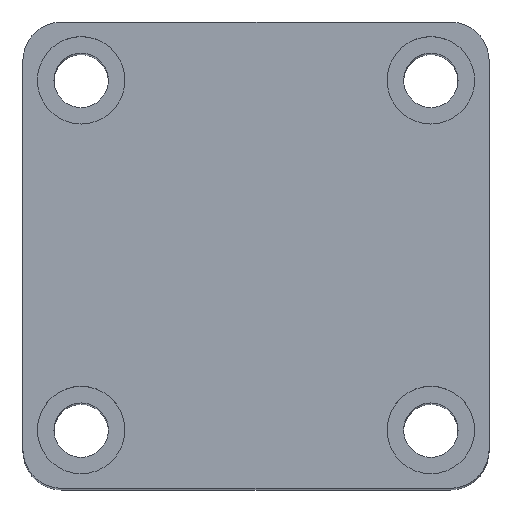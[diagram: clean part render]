
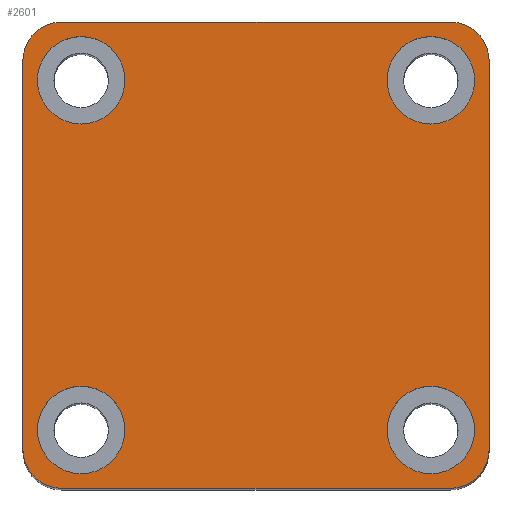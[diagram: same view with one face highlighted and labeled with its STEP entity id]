
A CAD part, top view. The second image highlights one B-rep face of the part: STEP entity #2601.
In plain terms, the highlighted planar face has unit normal (0, 0, 1).
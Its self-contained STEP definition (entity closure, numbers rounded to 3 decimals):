
#32 = VERTEX_POINT ( 'NONE', #1255 ) ;
#33 = VERTEX_POINT ( 'NONE', #1254 ) ;
#36 = VERTEX_POINT ( 'NONE', #1242 ) ;
#37 = VERTEX_POINT ( 'NONE', #1244 ) ;
#40 = VERTEX_POINT ( 'NONE', #1227 ) ;
#41 = VERTEX_POINT ( 'NONE', #1226 ) ;
#44 = VERTEX_POINT ( 'NONE', #1214 ) ;
#45 = VERTEX_POINT ( 'NONE', #1209 ) ;
#61 = VERTEX_POINT ( 'NONE', #1173 ) ;
#65 = VERTEX_POINT ( 'NONE', #1161 ) ;
#73 = VERTEX_POINT ( 'NONE', #1151 ) ;
#74 = VERTEX_POINT ( 'NONE', #1146 ) ;
#75 = VERTEX_POINT ( 'NONE', #1145 ) ;
#76 = VERTEX_POINT ( 'NONE', #1141 ) ;
#77 = VERTEX_POINT ( 'NONE', #1139 ) ;
#78 = VERTEX_POINT ( 'NONE', #1135 ) ;
#161 = CIRCLE ( 'NONE', #1444, 4.5 ) ;
#164 = VECTOR ( 'NONE', #2105, 1000. ) ;
#167 = LINE ( 'NONE', #2107, #164 ) ;
#171 = VECTOR ( 'NONE', #2076, 1000. ) ;
#177 = LINE ( 'NONE', #2083, #171 ) ;
#179 = VECTOR ( 'NONE', #2400, 1000. ) ;
#183 = LINE ( 'NONE', #2194, #179 ) ;
#449 = FACE_BOUND ( 'NONE', #1845, .T. ) ;
#450 = FACE_BOUND ( 'NONE', #1848, .T. ) ;
#451 = FACE_OUTER_BOUND ( 'NONE', #1849, .T. ) ;
#452 = FACE_BOUND ( 'NONE', #1854, .T. ) ;
#453 = FACE_BOUND ( 'NONE', #1853, .T. ) ;
#518 = CIRCLE ( 'NONE', #1435, 4. ) ;
#519 = CIRCLE ( 'NONE', #1436, 4. ) ;
#520 = CIRCLE ( 'NONE', #1437, 4. ) ;
#521 = CIRCLE ( 'NONE', #1438, 4. ) ;
#523 = CIRCLE ( 'NONE', #1440, 4.5 ) ;
#524 = CIRCLE ( 'NONE', #1441, 4.5 ) ;
#526 = CIRCLE ( 'NONE', #1443, 4.5 ) ;
#530 = CIRCLE ( 'NONE', #1439, 4.5 ) ;
#531 = VECTOR ( 'NONE', #2065, 1000. ) ;
#533 = LINE ( 'NONE', #2050, #531 ) ;
#633 = CIRCLE ( 'NONE', #1461, 4.5 ) ;
#643 = CIRCLE ( 'NONE', #1464, 4.5 ) ;
#689 = CIRCLE ( 'NONE', #1479, 4.5 ) ;
#873 = ORIENTED_EDGE ( 'NONE', *, *, #1667, .F. ) ;
#874 = ORIENTED_EDGE ( 'NONE', *, *, #1620, .F. ) ;
#876 = ORIENTED_EDGE ( 'NONE', *, *, #1668, .F. ) ;
#879 = ORIENTED_EDGE ( 'NONE', *, *, #1626, .F. ) ;
#881 = ORIENTED_EDGE ( 'NONE', *, *, #1669, .F. ) ;
#882 = ORIENTED_EDGE ( 'NONE', *, *, #1662, .F. ) ;
#884 = ORIENTED_EDGE ( 'NONE', *, *, #1670, .F. ) ;
#885 = ORIENTED_EDGE ( 'NONE', *, *, #1589, .F. ) ;
#886 = ORIENTED_EDGE ( 'NONE', *, *, #1655, .T. ) ;
#887 = ORIENTED_EDGE ( 'NONE', *, *, #1671, .T. ) ;
#889 = ORIENTED_EDGE ( 'NONE', *, *, #1657, .T. ) ;
#893 = ORIENTED_EDGE ( 'NONE', *, *, #1672, .T. ) ;
#900 = ORIENTED_EDGE ( 'NONE', *, *, #1663, .T. ) ;
#902 = ORIENTED_EDGE ( 'NONE', *, *, #1673, .T. ) ;
#905 = ORIENTED_EDGE ( 'NONE', *, *, #1648, .T. ) ;
#913 = ORIENTED_EDGE ( 'NONE', *, *, #1674, .T. ) ;
#1071 = DIRECTION ( 'NONE',  ( 1., 0., 0. ) ) ;
#1072 = DIRECTION ( 'NONE',  ( 0., 0., 1. ) ) ;
#1073 = CARTESIAN_POINT ( 'NONE',  ( 18., -18., 100. ) ) ;
#1135 = CARTESIAN_POINT ( 'NONE',  ( 20., -24., 100. ) ) ;
#1139 = CARTESIAN_POINT ( 'NONE',  ( -20., -24., 100. ) ) ;
#1141 = CARTESIAN_POINT ( 'NONE',  ( -24., -20., 100. ) ) ;
#1145 = CARTESIAN_POINT ( 'NONE',  ( -20., 24., 100. ) ) ;
#1146 = CARTESIAN_POINT ( 'NONE',  ( 20., 24., 100. ) ) ;
#1151 = CARTESIAN_POINT ( 'NONE',  ( -24., 20., 100. ) ) ;
#1161 = CARTESIAN_POINT ( 'NONE',  ( 24., 20., 100. ) ) ;
#1173 = CARTESIAN_POINT ( 'NONE',  ( 24., -20., 100. ) ) ;
#1209 = CARTESIAN_POINT ( 'NONE',  ( 22.5, -18., 100. ) ) ;
#1214 = CARTESIAN_POINT ( 'NONE',  ( 13.5, -18., 100. ) ) ;
#1226 = CARTESIAN_POINT ( 'NONE',  ( -13.5, -18., 100. ) ) ;
#1227 = CARTESIAN_POINT ( 'NONE',  ( -22.5, -18., 100. ) ) ;
#1242 = CARTESIAN_POINT ( 'NONE',  ( 13.5, 18., 100. ) ) ;
#1244 = CARTESIAN_POINT ( 'NONE',  ( 22.5, 18., 100. ) ) ;
#1254 = CARTESIAN_POINT ( 'NONE',  ( -13.5, 18., 100. ) ) ;
#1255 = CARTESIAN_POINT ( 'NONE',  ( -22.5, 18., 100. ) ) ;
#1396 = AXIS2_PLACEMENT_3D ( 'NONE', #2297, #2308, #2291 ) ;
#1435 = AXIS2_PLACEMENT_3D ( 'NONE', #2542, #2541, #2539 ) ;
#1436 = AXIS2_PLACEMENT_3D ( 'NONE', #2546, #2544, #2543 ) ;
#1437 = AXIS2_PLACEMENT_3D ( 'NONE', #2549, #2548, #2547 ) ;
#1438 = AXIS2_PLACEMENT_3D ( 'NONE', #2554, #2552, #2551 ) ;
#1439 = AXIS2_PLACEMENT_3D ( 'NONE', #2558, #2557, #2556 ) ;
#1440 = AXIS2_PLACEMENT_3D ( 'NONE', #2565, #2561, #2560 ) ;
#1441 = AXIS2_PLACEMENT_3D ( 'NONE', #2569, #2567, #2566 ) ;
#1443 = AXIS2_PLACEMENT_3D ( 'NONE', #2573, #2572, #2570 ) ;
#1444 = AXIS2_PLACEMENT_3D ( 'NONE', #2037, #2032, #2029 ) ;
#1461 = AXIS2_PLACEMENT_3D ( 'NONE', #2490, #2489, #2494 ) ;
#1464 = AXIS2_PLACEMENT_3D ( 'NONE', #2535, #2540, #2533 ) ;
#1479 = AXIS2_PLACEMENT_3D ( 'NONE', #1073, #1072, #1071 ) ;
#1589 = EDGE_CURVE ( 'NONE', #44, #45, #689, .T. ) ;
#1620 = EDGE_CURVE ( 'NONE', #32, #33, #643, .T. ) ;
#1626 = EDGE_CURVE ( 'NONE', #36, #37, #633, .T. ) ;
#1648 = EDGE_CURVE ( 'NONE', #61, #65, #183, .T. ) ;
#1655 = EDGE_CURVE ( 'NONE', #74, #75, #167, .T. ) ;
#1657 = EDGE_CURVE ( 'NONE', #73, #76, #177, .T. ) ;
#1662 = EDGE_CURVE ( 'NONE', #40, #41, #161, .T. ) ;
#1663 = EDGE_CURVE ( 'NONE', #77, #78, #533, .T. ) ;
#1667 = EDGE_CURVE ( 'NONE', #33, #32, #526, .T. ) ;
#1668 = EDGE_CURVE ( 'NONE', #37, #36, #524, .T. ) ;
#1669 = EDGE_CURVE ( 'NONE', #41, #40, #523, .T. ) ;
#1670 = EDGE_CURVE ( 'NONE', #45, #44, #530, .T. ) ;
#1671 = EDGE_CURVE ( 'NONE', #75, #73, #521, .T. ) ;
#1672 = EDGE_CURVE ( 'NONE', #76, #77, #520, .T. ) ;
#1673 = EDGE_CURVE ( 'NONE', #78, #61, #519, .T. ) ;
#1674 = EDGE_CURVE ( 'NONE', #65, #74, #518, .T. ) ;
#1845 = EDGE_LOOP ( 'NONE', ( #876, #879 ) ) ;
#1848 = EDGE_LOOP ( 'NONE', ( #884, #885 ) ) ;
#1849 = EDGE_LOOP ( 'NONE', ( #886, #887, #889, #893, #900, #902, #905, #913 ) ) ;
#1853 = EDGE_LOOP ( 'NONE', ( #873, #874 ) ) ;
#1854 = EDGE_LOOP ( 'NONE', ( #881, #882 ) ) ;
#2029 = DIRECTION ( 'NONE',  ( 1., 0., 0. ) ) ;
#2032 = DIRECTION ( 'NONE',  ( 0., 0., 1. ) ) ;
#2037 = CARTESIAN_POINT ( 'NONE',  ( -18., -18., 100. ) ) ;
#2050 = CARTESIAN_POINT ( 'NONE',  ( -24., -24., 100. ) ) ;
#2065 = DIRECTION ( 'NONE',  ( 1., 0., 0. ) ) ;
#2076 = DIRECTION ( 'NONE',  ( 0., -1., 0. ) ) ;
#2083 = CARTESIAN_POINT ( 'NONE',  ( -24., 24., 100. ) ) ;
#2105 = DIRECTION ( 'NONE',  ( -1., 0., 0. ) ) ;
#2107 = CARTESIAN_POINT ( 'NONE',  ( -24., 24., 100. ) ) ;
#2194 = CARTESIAN_POINT ( 'NONE',  ( 24., 24., 100. ) ) ;
#2291 = DIRECTION ( 'NONE',  ( 1., 0., 0. ) ) ;
#2295 = PLANE ( 'NONE',  #1396 ) ;
#2297 = CARTESIAN_POINT ( 'NONE',  ( 0., 0., 100. ) ) ;
#2308 = DIRECTION ( 'NONE',  ( 0., 0., 1. ) ) ;
#2400 = DIRECTION ( 'NONE',  ( 0., 1., 0. ) ) ;
#2489 = DIRECTION ( 'NONE',  ( 0., 0., 1. ) ) ;
#2490 = CARTESIAN_POINT ( 'NONE',  ( 18., 18., 100. ) ) ;
#2494 = DIRECTION ( 'NONE',  ( 1., 0., 0. ) ) ;
#2533 = DIRECTION ( 'NONE',  ( 1., 0., 0. ) ) ;
#2535 = CARTESIAN_POINT ( 'NONE',  ( -18., 18., 100. ) ) ;
#2539 = DIRECTION ( 'NONE',  ( 1., 0., 0. ) ) ;
#2540 = DIRECTION ( 'NONE',  ( 0., 0., 1. ) ) ;
#2541 = DIRECTION ( 'NONE',  ( 0., 0., 1. ) ) ;
#2542 = CARTESIAN_POINT ( 'NONE',  ( 20., 20., 100. ) ) ;
#2543 = DIRECTION ( 'NONE',  ( 1., 0., 0. ) ) ;
#2544 = DIRECTION ( 'NONE',  ( 0., 0., 1. ) ) ;
#2546 = CARTESIAN_POINT ( 'NONE',  ( 20., -20., 100. ) ) ;
#2547 = DIRECTION ( 'NONE',  ( 1., 0., 0. ) ) ;
#2548 = DIRECTION ( 'NONE',  ( 0., 0., 1. ) ) ;
#2549 = CARTESIAN_POINT ( 'NONE',  ( -20., -20., 100. ) ) ;
#2551 = DIRECTION ( 'NONE',  ( 1., 0., 0. ) ) ;
#2552 = DIRECTION ( 'NONE',  ( 0., 0., 1. ) ) ;
#2554 = CARTESIAN_POINT ( 'NONE',  ( -20., 20., 100. ) ) ;
#2556 = DIRECTION ( 'NONE',  ( 1., 0., 0. ) ) ;
#2557 = DIRECTION ( 'NONE',  ( 0., 0., 1. ) ) ;
#2558 = CARTESIAN_POINT ( 'NONE',  ( 18., -18., 100. ) ) ;
#2560 = DIRECTION ( 'NONE',  ( 1., 0., 0. ) ) ;
#2561 = DIRECTION ( 'NONE',  ( 0., 0., 1. ) ) ;
#2565 = CARTESIAN_POINT ( 'NONE',  ( -18., -18., 100. ) ) ;
#2566 = DIRECTION ( 'NONE',  ( 1., 0., 0. ) ) ;
#2567 = DIRECTION ( 'NONE',  ( 0., 0., 1. ) ) ;
#2569 = CARTESIAN_POINT ( 'NONE',  ( 18., 18., 100. ) ) ;
#2570 = DIRECTION ( 'NONE',  ( 1., 0., 0. ) ) ;
#2572 = DIRECTION ( 'NONE',  ( 0., 0., 1. ) ) ;
#2573 = CARTESIAN_POINT ( 'NONE',  ( -18., 18., 100. ) ) ;
#2601 = ADVANCED_FACE ( 'NONE', ( #453, #449, #452, #450, #451 ), #2295, .T. ) ;
